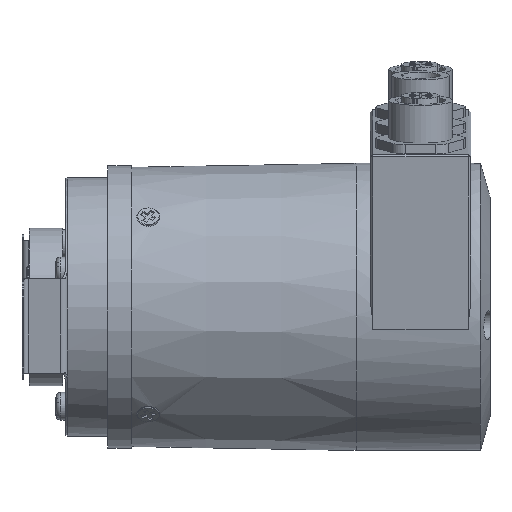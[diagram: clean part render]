
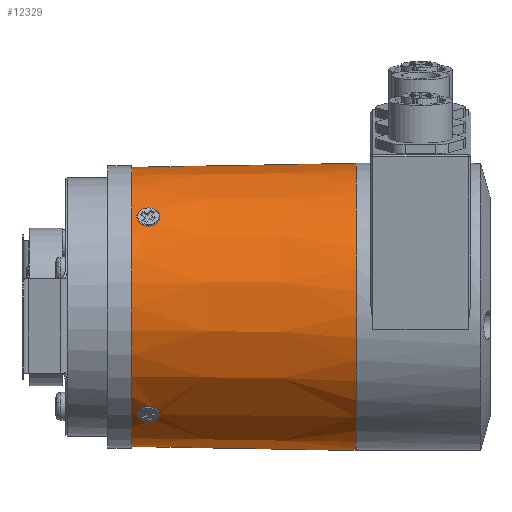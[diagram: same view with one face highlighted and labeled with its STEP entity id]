
A CAD part, left-side view. The second image highlights one B-rep face of the part: STEP entity #12329.
In plain terms, the highlighted conical face has half-angle 1 degrees and reference radius 30 mm.
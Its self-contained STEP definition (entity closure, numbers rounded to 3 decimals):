
#71=CONICAL_SURFACE('',#13321,30.,0.017);
#573=B_SPLINE_CURVE_WITH_KNOTS('',3,(#19535,#19536,#19537,#19538,#19539,
#19540,#19541),.UNSPECIFIED.,.F.,.F.,(4,1,1,1,4),(0.,0.25,0.5,0.75,1.),
 .UNSPECIFIED.);
#574=B_SPLINE_CURVE_WITH_KNOTS('',3,(#19578,#19579,#19580,#19581,#19582,
#19583,#19584),.UNSPECIFIED.,.F.,.F.,(4,1,1,1,4),(0.,0.25,0.5,0.75,1.),
 .UNSPECIFIED.);
#575=B_SPLINE_CURVE_WITH_KNOTS('',3,(#19625,#19626,#19627,#19628,#19629,
#19630,#19631),.UNSPECIFIED.,.F.,.F.,(4,1,1,1,4),(0.,0.25,0.5,0.75,1.),
 .UNSPECIFIED.);
#576=B_SPLINE_CURVE_WITH_KNOTS('',3,(#19668,#19669,#19670,#19671,#19672,
#19673,#19674),.UNSPECIFIED.,.F.,.F.,(4,1,1,1,4),(0.,0.25,0.5,0.75,1.),
 .UNSPECIFIED.);
#578=B_SPLINE_CURVE_WITH_KNOTS('',3,(#19716,#19717,#19718,#19719),
 .UNSPECIFIED.,.F.,.F.,(4,4),(0.,1.),.UNSPECIFIED.);
#579=B_SPLINE_CURVE_WITH_KNOTS('',3,(#19721,#19722,#19723,#19724,#19725,
#19726,#19727),.UNSPECIFIED.,.F.,.F.,(4,1,1,1,4),(0.,0.25,0.5,0.75,1.),
 .UNSPECIFIED.);
#580=B_SPLINE_CURVE_WITH_KNOTS('',3,(#19766,#19767,#19768,#19769),
 .UNSPECIFIED.,.F.,.F.,(4,4),(0.,1.),.UNSPECIFIED.);
#581=B_SPLINE_CURVE_WITH_KNOTS('',3,(#19771,#19772,#19773,#19774,#19775,
#19776,#19777),.UNSPECIFIED.,.F.,.F.,(4,1,1,1,4),(0.,0.25,0.5,0.75,1.),
 .UNSPECIFIED.);
#582=B_SPLINE_CURVE_WITH_KNOTS('',3,(#19819,#19820,#19821,#19822,#19823,
#19824,#19825),.UNSPECIFIED.,.F.,.F.,(4,1,1,1,4),(0.,0.25,0.5,0.75,1.),
 .UNSPECIFIED.);
#583=B_SPLINE_CURVE_WITH_KNOTS('',3,(#19827,#19828,#19829,#19830),
 .UNSPECIFIED.,.F.,.F.,(4,4),(0.,1.),.UNSPECIFIED.);
#584=B_SPLINE_CURVE_WITH_KNOTS('',3,(#19869,#19870,#19871,#19872,#19873,
#19874,#19875),.UNSPECIFIED.,.F.,.F.,(4,1,1,1,4),(0.,0.25,0.5,0.75,1.),
 .UNSPECIFIED.);
#585=B_SPLINE_CURVE_WITH_KNOTS('',3,(#19877,#19878,#19879,#19880),
 .UNSPECIFIED.,.F.,.F.,(4,4),(0.,1.),.UNSPECIFIED.);
#824=CIRCLE('',#13309,29.181);
#831=CIRCLE('',#13322,30.);
#2345=ORIENTED_EDGE('',*,*,#5283,.T.);
#2346=ORIENTED_EDGE('',*,*,#5282,.T.);
#2347=ORIENTED_EDGE('',*,*,#5280,.T.);
#2348=ORIENTED_EDGE('',*,*,#5279,.T.);
#2349=ORIENTED_EDGE('',*,*,#5292,.T.);
#2350=ORIENTED_EDGE('',*,*,#5277,.F.);
#2351=ORIENTED_EDGE('',*,*,#5276,.T.);
#2352=ORIENTED_EDGE('',*,*,#5275,.T.);
#2353=ORIENTED_EDGE('',*,*,#5273,.T.);
#2354=ORIENTED_EDGE('',*,*,#5272,.T.);
#2355=ORIENTED_EDGE('',*,*,#5270,.T.);
#2356=ORIENTED_EDGE('',*,*,#5269,.T.);
#2357=ORIENTED_EDGE('',*,*,#5266,.T.);
#2358=ORIENTED_EDGE('',*,*,#5265,.T.);
#5265=EDGE_CURVE('',#6841,#6842,#573,.T.);
#5266=EDGE_CURVE('',#6842,#6841,#574,.T.);
#5269=EDGE_CURVE('',#6843,#6844,#575,.T.);
#5270=EDGE_CURVE('',#6844,#6843,#576,.T.);
#5272=EDGE_CURVE('',#6846,#6845,#578,.T.);
#5273=EDGE_CURVE('',#6847,#6846,#579,.T.);
#5275=EDGE_CURVE('',#6848,#6847,#580,.T.);
#5276=EDGE_CURVE('',#6845,#6848,#581,.T.);
#5277=EDGE_CURVE('',#6849,#6849,#824,.T.);
#5279=EDGE_CURVE('',#6851,#6850,#582,.T.);
#5280=EDGE_CURVE('',#6852,#6851,#583,.T.);
#5282=EDGE_CURVE('',#6853,#6852,#584,.T.);
#5283=EDGE_CURVE('',#6850,#6853,#585,.T.);
#5292=EDGE_CURVE('',#6860,#6860,#831,.T.);
#6841=VERTEX_POINT('',#19532);
#6842=VERTEX_POINT('',#19534);
#6843=VERTEX_POINT('',#19622);
#6844=VERTEX_POINT('',#19624);
#6845=VERTEX_POINT('',#19715);
#6846=VERTEX_POINT('',#19720);
#6847=VERTEX_POINT('',#19728);
#6848=VERTEX_POINT('',#19770);
#6849=VERTEX_POINT('',#19780);
#6850=VERTEX_POINT('',#19818);
#6851=VERTEX_POINT('',#19826);
#6852=VERTEX_POINT('',#19831);
#6853=VERTEX_POINT('',#19876);
#6860=VERTEX_POINT('',#19918);
#9957=EDGE_LOOP('',(#2345,#2346,#2347,#2348));
#9958=EDGE_LOOP('',(#2349));
#9959=EDGE_LOOP('',(#2350));
#9960=EDGE_LOOP('',(#2351,#2352,#2353,#2354));
#9961=EDGE_LOOP('',(#2355,#2356));
#9962=EDGE_LOOP('',(#2357,#2358));
#11021=FACE_BOUND('',#9957,.T.);
#11022=FACE_BOUND('',#9958,.T.);
#11023=FACE_BOUND('',#9959,.T.);
#11024=FACE_BOUND('',#9960,.T.);
#11025=FACE_BOUND('',#9961,.T.);
#11026=FACE_BOUND('',#9962,.T.);
#12329=ADVANCED_FACE('',(#11021,#11022,#11023,#11024,#11025,#11026),#71,
 .T.);
#13309=AXIS2_PLACEMENT_3D('',#19779,#15424,#15425);
#13321=AXIS2_PLACEMENT_3D('',#19916,#15450,#15451);
#13322=AXIS2_PLACEMENT_3D('',#19917,#15452,#15453);
#15424=DIRECTION('',(0.,1.,0.));
#15425=DIRECTION('',(-0.643,0.,-0.766));
#15450=DIRECTION('',(0.,-1.,0.));
#15451=DIRECTION('',(-0.643,0.,-0.766));
#15452=DIRECTION('',(0.,1.,0.));
#15453=DIRECTION('',(-0.156,0.,0.988));
#19532=CARTESIAN_POINT('',(-17.638,5.646,9.067));
#19534=CARTESIAN_POINT('',(-15.092,2.918,12.175));
#19535=CARTESIAN_POINT('',(-17.638,5.646,9.067));
#19536=CARTESIAN_POINT('',(-17.414,6.162,9.359));
#19537=CARTESIAN_POINT('',(-16.706,6.887,10.283));
#19538=CARTESIAN_POINT('',(-15.372,6.454,11.814));
#19539=CARTESIAN_POINT('',(-14.601,4.749,12.626));
#19540=CARTESIAN_POINT('',(-14.83,3.431,12.434));
#19541=CARTESIAN_POINT('',(-15.092,2.918,12.175));
#19578=CARTESIAN_POINT('',(-15.092,2.918,12.175));
#19579=CARTESIAN_POINT('',(-15.354,2.404,11.916));
#19580=CARTESIAN_POINT('',(-16.159,1.679,11.075));
#19581=CARTESIAN_POINT('',(-17.423,2.11,9.488));
#19582=CARTESIAN_POINT('',(-18.045,3.814,8.548));
#19583=CARTESIAN_POINT('',(-17.862,5.13,8.774));
#19584=CARTESIAN_POINT('',(-17.638,5.646,9.067));
#19622=CARTESIAN_POINT('',(27.021,5.647,-28.407));
#19624=CARTESIAN_POINT('',(29.641,2.918,-25.36));
#19625=CARTESIAN_POINT('',(27.021,5.647,-28.407));
#19626=CARTESIAN_POINT('',(26.773,5.132,-28.678));
#19627=CARTESIAN_POINT('',(26.581,3.814,-28.898));
#19628=CARTESIAN_POINT('',(27.399,2.11,-28.122));
#19629=CARTESIAN_POINT('',(28.742,1.679,-26.603));
#19630=CARTESIAN_POINT('',(29.431,2.404,-25.662));
#19631=CARTESIAN_POINT('',(29.641,2.918,-25.36));
#19668=CARTESIAN_POINT('',(29.641,2.918,-25.36));
#19669=CARTESIAN_POINT('',(29.85,3.431,-25.057));
#19670=CARTESIAN_POINT('',(29.999,4.748,-24.798));
#19671=CARTESIAN_POINT('',(29.334,6.454,-25.698));
#19672=CARTESIAN_POINT('',(28.057,6.886,-27.278));
#19673=CARTESIAN_POINT('',(27.271,6.163,-28.135));
#19674=CARTESIAN_POINT('',(27.021,5.647,-28.407));
#19715=CARTESIAN_POINT('',(-14.064,6.002,-29.379));
#19716=CARTESIAN_POINT('',(-12.786,6.671,-30.5));
#19717=CARTESIAN_POINT('',(-13.291,6.67,-30.076));
#19718=CARTESIAN_POINT('',(-13.714,6.446,-29.698));
#19719=CARTESIAN_POINT('',(-14.064,6.002,-29.379));
#19720=CARTESIAN_POINT('',(-12.786,6.671,-30.5));
#19721=CARTESIAN_POINT('',(-11.5,2.563,-31.608));
#19722=CARTESIAN_POINT('',(-11.216,2.891,-31.813));
#19723=CARTESIAN_POINT('',(-10.803,3.758,-32.086));
#19724=CARTESIAN_POINT('',(-10.899,5.23,-31.989));
#19725=CARTESIAN_POINT('',(-11.656,6.377,-31.419));
#19726=CARTESIAN_POINT('',(-12.415,6.671,-30.811));
#19727=CARTESIAN_POINT('',(-12.786,6.671,-30.5));
#19728=CARTESIAN_POINT('',(-11.5,2.563,-31.608));
#19766=CARTESIAN_POINT('',(-12.84,1.895,-30.563));
#19767=CARTESIAN_POINT('',(-12.36,1.896,-30.966));
#19768=CARTESIAN_POINT('',(-11.867,2.139,-31.344));
#19769=CARTESIAN_POINT('',(-11.5,2.563,-31.608));
#19770=CARTESIAN_POINT('',(-12.84,1.895,-30.563));
#19771=CARTESIAN_POINT('',(-14.064,6.002,-29.379));
#19772=CARTESIAN_POINT('',(-14.322,5.673,-29.142));
#19773=CARTESIAN_POINT('',(-14.682,4.806,-28.807));
#19774=CARTESIAN_POINT('',(-14.6,3.332,-28.927));
#19775=CARTESIAN_POINT('',(-13.935,2.188,-29.603));
#19776=CARTESIAN_POINT('',(-13.212,1.894,-30.252));
#19777=CARTESIAN_POINT('',(-12.84,1.895,-30.563));
#19779=CARTESIAN_POINT('',(5.983,7.77,-8.131));
#19780=CARTESIAN_POINT('',(-12.774,7.77,-30.485));
#19818=CARTESIAN_POINT('',(23.427,6.002,15.301));
#19819=CARTESIAN_POINT('',(24.807,1.895,14.302));
#19820=CARTESIAN_POINT('',(24.435,1.895,14.614));
#19821=CARTESIAN_POINT('',(23.671,2.187,15.213));
#19822=CARTESIAN_POINT('',(22.889,3.332,15.751));
#19823=CARTESIAN_POINT('',(22.757,4.805,15.811));
#19824=CARTESIAN_POINT('',(23.149,5.672,15.516));
#19825=CARTESIAN_POINT('',(23.427,6.002,15.301));
#19826=CARTESIAN_POINT('',(24.807,1.895,14.302));
#19827=CARTESIAN_POINT('',(26.069,2.563,13.164));
#19828=CARTESIAN_POINT('',(25.744,2.139,13.48));
#19829=CARTESIAN_POINT('',(25.286,1.895,13.9));
#19830=CARTESIAN_POINT('',(24.807,1.895,14.302));
#19831=CARTESIAN_POINT('',(26.069,2.563,13.164));
#19869=CARTESIAN_POINT('',(24.753,6.671,14.238));
#19870=CARTESIAN_POINT('',(25.126,6.671,13.925));
#19871=CARTESIAN_POINT('',(25.855,6.377,13.285));
#19872=CARTESIAN_POINT('',(26.547,5.23,12.638));
#19873=CARTESIAN_POINT('',(26.66,3.759,12.56));
#19874=CARTESIAN_POINT('',(26.319,2.891,12.919));
#19875=CARTESIAN_POINT('',(26.069,2.563,13.164));
#19876=CARTESIAN_POINT('',(24.753,6.671,14.238));
#19877=CARTESIAN_POINT('',(23.427,6.002,15.301));
#19878=CARTESIAN_POINT('',(23.786,6.427,15.025));
#19879=CARTESIAN_POINT('',(24.273,6.671,14.641));
#19880=CARTESIAN_POINT('',(24.753,6.671,14.238));
#19916=CARTESIAN_POINT('',(5.983,-39.13,-8.131));
#19917=CARTESIAN_POINT('',(5.983,-39.13,-8.131));
#19918=CARTESIAN_POINT('',(1.29,-39.13,21.5));
